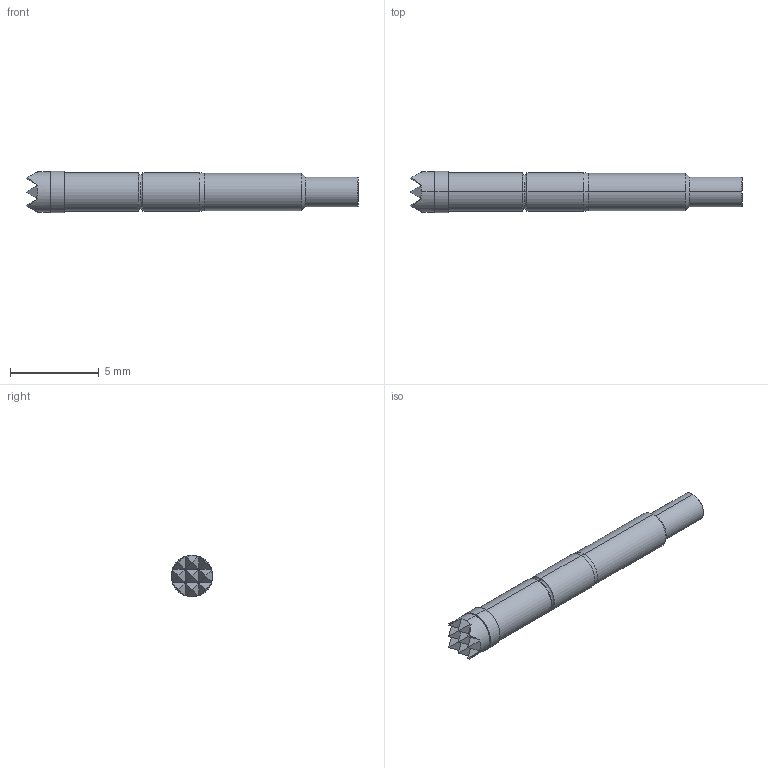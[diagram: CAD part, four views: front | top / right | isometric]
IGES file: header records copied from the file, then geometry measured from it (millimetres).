
Start section: SolidWorks IGES file using analytic representation for surfaces
Global section: file name: O:\PYLON\IGES FILES\F-S\F-S-W FULL.IGS; native system: SolidWorks 2015; preprocessor: SolidWorks 2015; author: kgolden; date: 171024.102530; units: inch
Bounding box: 18.67 x 2.34 x 2.34 mm (x, y, z)
Surface area: 148.2 mm2 (no closed solid volume)
Topology: 0 solids, 0 shells, 65 faces, 470 edges, 470 vertices
Faces by surface type: bspline 45, revolution 20
